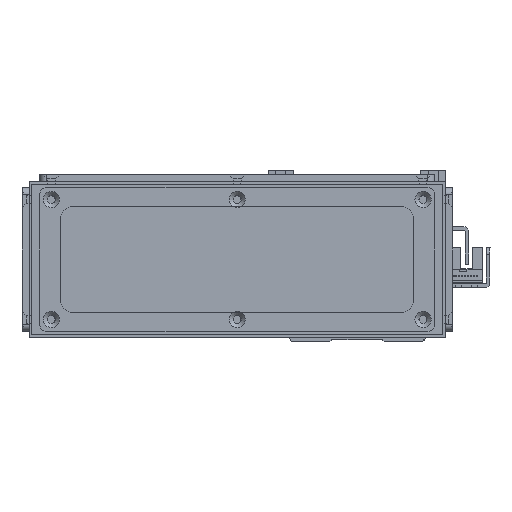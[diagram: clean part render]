
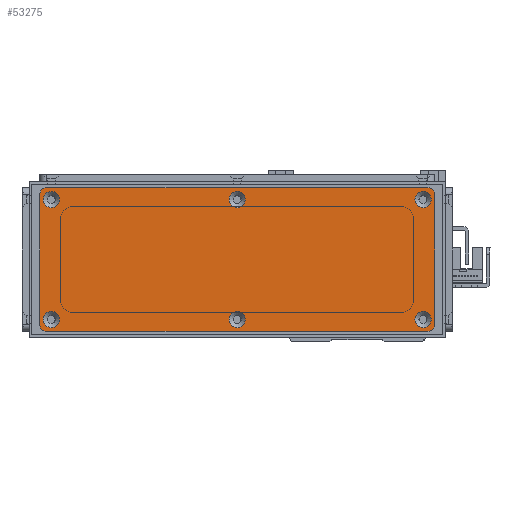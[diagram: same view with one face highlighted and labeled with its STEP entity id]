
A CAD part, left-side view. The second image highlights one B-rep face of the part: STEP entity #53275.
In plain terms, the highlighted planar face has unit normal (-1, 0, 0) as drawn and (0, 0, 1) by its records, which use the part's own axes.
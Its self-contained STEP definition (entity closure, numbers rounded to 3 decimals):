
#957=FACE_BOUND('',#8570,.T.);
#958=FACE_BOUND('',#8571,.T.);
#959=FACE_BOUND('',#8572,.T.);
#960=FACE_BOUND('',#8573,.T.);
#961=FACE_BOUND('',#8574,.T.);
#962=FACE_BOUND('',#8575,.T.);
#2917=PLANE('',#57305);
#5436=FACE_OUTER_BOUND('',#8569,.T.);
#8569=EDGE_LOOP('',(#48160,#48161,#48162,#48163,#48164,#48165,#48166,#48167));
#8570=EDGE_LOOP('',(#48168));
#8571=EDGE_LOOP('',(#48169));
#8572=EDGE_LOOP('',(#48170));
#8573=EDGE_LOOP('',(#48171));
#8574=EDGE_LOOP('',(#48172));
#8575=EDGE_LOOP('',(#48173));
#14662=LINE('',#85994,#20848);
#14665=LINE('',#86002,#20851);
#14668=LINE('',#86010,#20854);
#14671=LINE('',#86017,#20857);
#20848=VECTOR('',#70025,10.);
#20851=VECTOR('',#70034,10.);
#20854=VECTOR('',#70043,10.);
#20857=VECTOR('',#70052,10.);
#22364=CIRCLE('',#57259,3.45);
#22367=CIRCLE('',#57264,3.45);
#22370=CIRCLE('',#57269,3.45);
#22373=CIRCLE('',#57274,3.45);
#22376=CIRCLE('',#57279,3.45);
#22379=CIRCLE('',#57284,3.45);
#22386=CIRCLE('',#57294,3.);
#22387=CIRCLE('',#57297,3.);
#22388=CIRCLE('',#57300,3.);
#22389=CIRCLE('',#57303,3.);
#27049=VERTEX_POINT('',#85910);
#27052=VERTEX_POINT('',#85920);
#27055=VERTEX_POINT('',#85930);
#27058=VERTEX_POINT('',#85940);
#27061=VERTEX_POINT('',#85950);
#27064=VERTEX_POINT('',#85960);
#27075=VERTEX_POINT('',#85987);
#27076=VERTEX_POINT('',#85989);
#27077=VERTEX_POINT('',#85993);
#27078=VERTEX_POINT('',#85997);
#27079=VERTEX_POINT('',#86001);
#27080=VERTEX_POINT('',#86005);
#27081=VERTEX_POINT('',#86009);
#27082=VERTEX_POINT('',#86013);
#34177=EDGE_CURVE('',#27049,#27049,#22364,.T.);
#34182=EDGE_CURVE('',#27052,#27052,#22367,.T.);
#34187=EDGE_CURVE('',#27055,#27055,#22370,.T.);
#34192=EDGE_CURVE('',#27058,#27058,#22373,.T.);
#34197=EDGE_CURVE('',#27061,#27061,#22376,.T.);
#34202=EDGE_CURVE('',#27064,#27064,#22379,.T.);
#34216=EDGE_CURVE('',#27076,#27075,#22386,.T.);
#34218=EDGE_CURVE('',#27077,#27076,#14662,.T.);
#34220=EDGE_CURVE('',#27078,#27077,#22387,.T.);
#34222=EDGE_CURVE('',#27079,#27078,#14665,.T.);
#34224=EDGE_CURVE('',#27080,#27079,#22388,.T.);
#34226=EDGE_CURVE('',#27081,#27080,#14668,.T.);
#34228=EDGE_CURVE('',#27082,#27081,#22389,.T.);
#34230=EDGE_CURVE('',#27075,#27082,#14671,.T.);
#48160=ORIENTED_EDGE('',*,*,#34230,.T.);
#48161=ORIENTED_EDGE('',*,*,#34228,.T.);
#48162=ORIENTED_EDGE('',*,*,#34226,.T.);
#48163=ORIENTED_EDGE('',*,*,#34224,.T.);
#48164=ORIENTED_EDGE('',*,*,#34222,.T.);
#48165=ORIENTED_EDGE('',*,*,#34220,.T.);
#48166=ORIENTED_EDGE('',*,*,#34218,.T.);
#48167=ORIENTED_EDGE('',*,*,#34216,.T.);
#48168=ORIENTED_EDGE('',*,*,#34177,.T.);
#48169=ORIENTED_EDGE('',*,*,#34182,.T.);
#48170=ORIENTED_EDGE('',*,*,#34187,.T.);
#48171=ORIENTED_EDGE('',*,*,#34192,.T.);
#48172=ORIENTED_EDGE('',*,*,#34197,.T.);
#48173=ORIENTED_EDGE('',*,*,#34202,.T.);
#53275=ADVANCED_FACE('',(#5436,#957,#958,#959,#960,#961,#962),#2917,.T.);
#57259=AXIS2_PLACEMENT_3D('',#85911,#69933,#69934);
#57264=AXIS2_PLACEMENT_3D('',#85921,#69945,#69946);
#57269=AXIS2_PLACEMENT_3D('',#85931,#69957,#69958);
#57274=AXIS2_PLACEMENT_3D('',#85941,#69969,#69970);
#57279=AXIS2_PLACEMENT_3D('',#85951,#69981,#69982);
#57284=AXIS2_PLACEMENT_3D('',#85961,#69993,#69994);
#57294=AXIS2_PLACEMENT_3D('',#85990,#70020,#70021);
#57297=AXIS2_PLACEMENT_3D('',#85998,#70029,#70030);
#57300=AXIS2_PLACEMENT_3D('',#86006,#70038,#70039);
#57303=AXIS2_PLACEMENT_3D('',#86014,#70047,#70048);
#57305=AXIS2_PLACEMENT_3D('',#86018,#70053,#70054);
#69933=DIRECTION('center_axis',(0.,0.,-1.));
#69934=DIRECTION('ref_axis',(1.,0.,0.));
#69945=DIRECTION('center_axis',(0.,0.,-1.));
#69946=DIRECTION('ref_axis',(1.,0.,0.));
#69957=DIRECTION('center_axis',(0.,0.,-1.));
#69958=DIRECTION('ref_axis',(1.,0.,0.));
#69969=DIRECTION('center_axis',(0.,0.,-1.));
#69970=DIRECTION('ref_axis',(1.,0.,0.));
#69981=DIRECTION('center_axis',(0.,0.,-1.));
#69982=DIRECTION('ref_axis',(1.,0.,0.));
#69993=DIRECTION('center_axis',(0.,0.,-1.));
#69994=DIRECTION('ref_axis',(1.,0.,0.));
#70020=DIRECTION('center_axis',(0.,0.,1.));
#70021=DIRECTION('ref_axis',(-1.,0.,0.));
#70025=DIRECTION('',(0.,1.,0.));
#70029=DIRECTION('center_axis',(0.,0.,1.));
#70030=DIRECTION('ref_axis',(0.,1.,0.));
#70034=DIRECTION('',(1.,0.,0.));
#70038=DIRECTION('center_axis',(0.,0.,1.));
#70039=DIRECTION('ref_axis',(1.,0.,0.));
#70043=DIRECTION('',(0.,-1.,0.));
#70047=DIRECTION('center_axis',(0.,0.,1.));
#70048=DIRECTION('ref_axis',(0.,-1.,0.));
#70052=DIRECTION('',(-1.,0.,0.));
#70053=DIRECTION('center_axis',(0.,0.,1.));
#70054=DIRECTION('ref_axis',(1.,0.,0.));
#85910=CARTESIAN_POINT('',(-3.45,25.5,1.5));
#85911=CARTESIAN_POINT('Origin',(0.,25.5,1.5));
#85920=CARTESIAN_POINT('',(75.55,-25.5,1.5));
#85921=CARTESIAN_POINT('Origin',(79.,-25.5,1.5));
#85930=CARTESIAN_POINT('',(-82.45,25.5,1.5));
#85931=CARTESIAN_POINT('Origin',(-79.,25.5,1.5));
#85940=CARTESIAN_POINT('',(75.55,25.5,1.5));
#85941=CARTESIAN_POINT('Origin',(79.,25.5,1.5));
#85950=CARTESIAN_POINT('',(-82.45,-25.5,1.5));
#85951=CARTESIAN_POINT('Origin',(-79.,-25.5,1.5));
#85960=CARTESIAN_POINT('',(-3.45,-25.5,1.5));
#85961=CARTESIAN_POINT('Origin',(0.,-25.5,1.5));
#85987=CARTESIAN_POINT('',(81.,30.5,1.5));
#85989=CARTESIAN_POINT('',(84.,27.5,1.5));
#85990=CARTESIAN_POINT('Origin',(81.,27.5,1.5));
#85993=CARTESIAN_POINT('',(84.,-27.5,1.5));
#85994=CARTESIAN_POINT('',(84.,27.5,1.5));
#85997=CARTESIAN_POINT('',(81.,-30.5,1.5));
#85998=CARTESIAN_POINT('Origin',(81.,-27.5,1.5));
#86001=CARTESIAN_POINT('',(-81.,-30.5,1.5));
#86002=CARTESIAN_POINT('',(81.,-30.5,1.5));
#86005=CARTESIAN_POINT('',(-84.,-27.5,1.5));
#86006=CARTESIAN_POINT('Origin',(-81.,-27.5,1.5));
#86009=CARTESIAN_POINT('',(-84.,27.5,1.5));
#86010=CARTESIAN_POINT('',(-84.,-27.5,1.5));
#86013=CARTESIAN_POINT('',(-81.,30.5,1.5));
#86014=CARTESIAN_POINT('Origin',(-81.,27.5,1.5));
#86017=CARTESIAN_POINT('',(-81.,30.5,1.5));
#86018=CARTESIAN_POINT('Origin',(0.,0.,
1.5));
